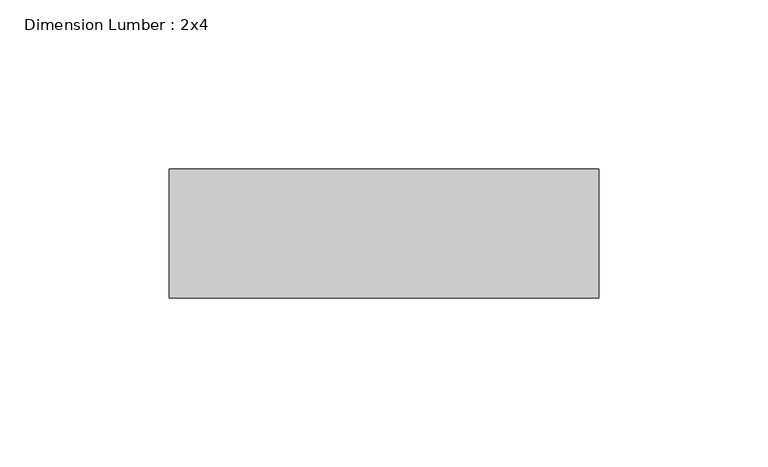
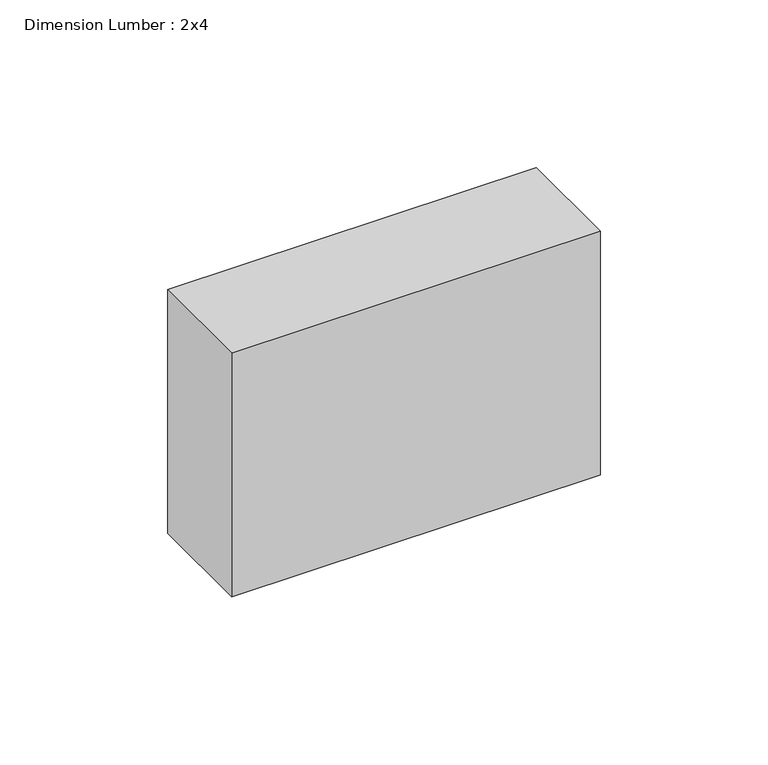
"""IFC4 building model written with IfcOpenShell, lengths in millimetres: beam geometry, Dimension Lumber : 2x4."""

from ifc_helpers import new_model, si_unit, frame, origin, place, context, project, spatial, polyline, outline, extrude, source, transform, mapped, element, save


def dimension_lumber_2x4_2c48d0d1(model_context):
    return source(origin(), model_context, "Body", "SweptSolid", [
        extrude(outline(polyline([(63.5, 19.05), (63.5, -19.05), (-63.5, -19.05), (-63.5, 19.05), (63.5, 19.05)])), frame((0.0, 0.0, -44.45), z_axis=(0.0, 0.0, 1.0), x_axis=(1.0, 0.0, 0.0)), (0.0, 0.0, 1.0), 88.9),
    ])


if __name__ == "__main__":
    model = new_model("IFC4")
    model_context = context("Model", 3, world=origin())
    ifc_project = project(units=[si_unit("LENGTHUNIT", "METRE", prefix="MILLI")], contexts=[model_context])
    site = spatial("IfcSite", under=ifc_project)
    building = spatial("IfcBuilding", under=site)
    placement = place(None, origin())
    dimension_lumber_2x4_shape = dimension_lumber_2x4_2c48d0d1(model_context)
    element("IfcBeam", 1, ObjectType="Dimension Lumber : 2x4", at=placement, inside=building, context=model_context, shape_type="MappedRepresentation", body=[
        mapped(dimension_lumber_2x4_shape, transform((0.0, 0.0, 0.0), x_axis=(1.0, 0.0, 0.0), y_axis=(0.0, 1.0, 0.0), z_axis=(0.0, 0.0, 1.0))),
    ])
    save(model, "model.ifc")
